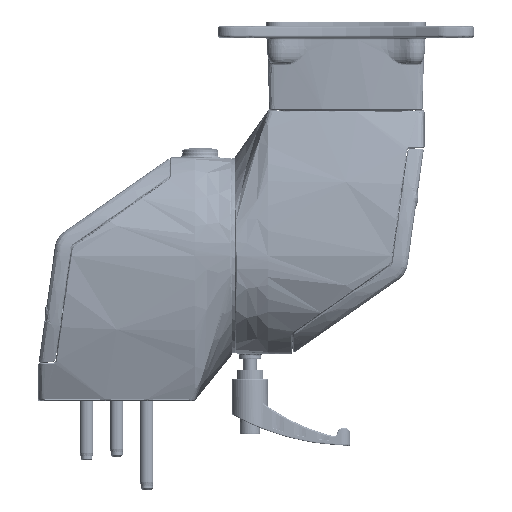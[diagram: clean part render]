
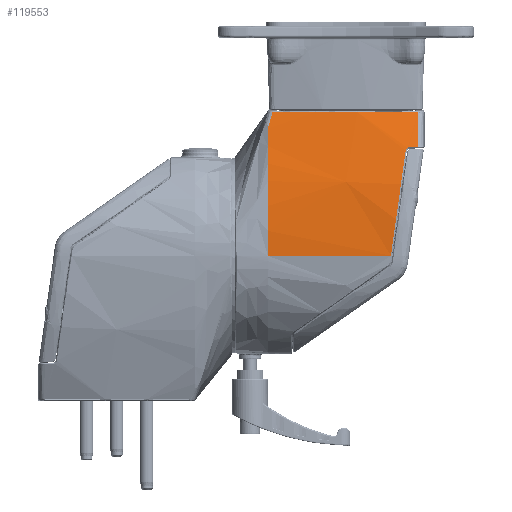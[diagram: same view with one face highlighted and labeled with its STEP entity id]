
A CAD part, left-side view. The second image highlights one B-rep face of the part: STEP entity #119553.
In plain terms, the highlighted free-form (B-spline) face has degree [3, 3] with [5, 5] control points.
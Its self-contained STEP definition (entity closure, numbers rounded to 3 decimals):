
#85791=DIRECTION('',(0.,1.,0.));
#85792=VECTOR('',#85791,55.175);
#85793=CARTESIAN_POINT('',(44.,15.,0.));
#85794=LINE('',#85793,#85792);
#85812=CARTESIAN_POINT('',(29.618,17.142,64.427));
#85813=CARTESIAN_POINT('',(29.942,16.914,63.661));
#85814=CARTESIAN_POINT('',(30.599,16.45,62.085));
#85815=CARTESIAN_POINT('',(31.612,15.732,59.574));
#85816=CARTESIAN_POINT('',(32.294,15.244,57.817));
#85817=CARTESIAN_POINT('',(32.637,14.998,56.916));
#85822=CARTESIAN_POINT('',(29.684,82.445,64.425));
#85823=CARTESIAN_POINT('',(29.917,80.971,64.419));
#85824=CARTESIAN_POINT('',(30.35,78.022,64.409));
#85825=CARTESIAN_POINT('',(30.886,73.768,64.395));
#85826=CARTESIAN_POINT('',(31.368,69.176,64.383));
#85827=CARTESIAN_POINT('',(31.763,64.35,64.372));
#85828=CARTESIAN_POINT('',(32.058,59.248,64.364));
#85829=CARTESIAN_POINT('',(32.228,53.968,64.36));
#85830=CARTESIAN_POINT('',(32.262,48.659,64.359));
#85831=CARTESIAN_POINT('',(32.16,43.417,64.362));
#85832=CARTESIAN_POINT('',(31.928,38.22,64.368));
#85833=CARTESIAN_POINT('',(31.577,33.185,64.377));
#85834=CARTESIAN_POINT('',(31.114,28.244,64.389));
#85835=CARTESIAN_POINT('',(30.503,23.055,64.405));
#85836=CARTESIAN_POINT('',(29.943,19.17,64.419));
#85837=CARTESIAN_POINT('',(29.618,17.142,64.427));
#85842=CARTESIAN_POINT('',(29.684,82.445,64.425));
#85843=CARTESIAN_POINT('',(30.161,82.432,63.41));
#85844=CARTESIAN_POINT('',(31.092,82.405,61.367));
#85845=CARTESIAN_POINT('',(32.424,82.366,58.263));
#85846=CARTESIAN_POINT('',(33.687,82.33,55.124));
#85847=CARTESIAN_POINT('',(34.882,82.295,51.951));
#85848=CARTESIAN_POINT('',(35.631,82.273,49.816));
#85849=CARTESIAN_POINT('',(35.994,82.262,48.743));
#85854=CARTESIAN_POINT('',(36.295,78.734,48.676));
#85855=CARTESIAN_POINT('',(36.263,79.126,48.684));
#85856=CARTESIAN_POINT('',(36.199,79.909,48.699));
#85857=CARTESIAN_POINT('',(36.099,81.085,48.721));
#85858=CARTESIAN_POINT('',(36.029,81.87,48.736));
#85859=CARTESIAN_POINT('',(35.994,82.262,48.743));
#85864=CARTESIAN_POINT('',(36.975,76.784,46.947));
#85865=CARTESIAN_POINT('',(36.914,76.811,47.139));
#85866=CARTESIAN_POINT('',(36.79,76.922,47.519));
#85867=CARTESIAN_POINT('',(36.616,77.241,48.008));
#85868=CARTESIAN_POINT('',(36.467,77.674,48.381));
#85869=CARTESIAN_POINT('',(36.354,78.191,48.617));
#85870=CARTESIAN_POINT('',(36.309,78.551,48.673));
#85871=CARTESIAN_POINT('',(36.295,78.734,48.676));
#85876=CARTESIAN_POINT('',(44.,70.175,0.));
#85877=CARTESIAN_POINT('',(44.,70.748,4.089));
#85878=CARTESIAN_POINT('',(43.697,71.904,12.328));
#85879=CARTESIAN_POINT('',(42.356,73.583,24.273));
#85880=CARTESIAN_POINT('',(40.141,75.222,35.904));
#85881=CARTESIAN_POINT('',(38.132,76.264,43.276));
#85882=CARTESIAN_POINT('',(36.975,76.784,46.947));
#86381=CARTESIAN_POINT('',(32.637,14.998,56.916));
#86419=CARTESIAN_POINT('',(-104.245,15.,0.));
#86420=DIRECTION('',(0.,-1.,0.));
#86421=DIRECTION('',(0.974,0.,0.225));
#86422=AXIS2_PLACEMENT_3D('',#86419,#86420,#86421);
#86427=CARTESIAN_POINT('',(-104.245,15.,0.));
#86428=DIRECTION('',(0.,-1.,0.));
#86429=DIRECTION('',(1.,0.,0.));
#86430=AXIS2_PLACEMENT_3D('',#86427,#86428,#86429);
#96722=CARTESIAN_POINT('',(44.,15.,0.));
#96723=CARTESIAN_POINT('',(40.209,15.,33.31));
#96724=VERTEX_POINT('',#96722);
#96725=VERTEX_POINT('',#96723);
#96746=VERTEX_POINT('',#86381);
#96762=VERTEX_POINT('',#85876);
#96763=VERTEX_POINT('',#85882);
#96942=VERTEX_POINT('',#85812);
#97385=VERTEX_POINT('',#85842);
#97386=VERTEX_POINT('',#85849);
#97812=VERTEX_POINT('',#85854);
#119509=CARTESIAN_POINT('',(28.86,14.329,
65.027));
#119510=CARTESIAN_POINT('',(30.946,26.219,
65.028));
#119511=CARTESIAN_POINT('',(32.957,49.147,
65.029));
#119512=CARTESIAN_POINT('',(31.09,72.076,
65.028));
#119513=CARTESIAN_POINT('',(29.293,83.113,
65.028));
#119514=CARTESIAN_POINT('',(33.822,14.329,
54.947));
#119515=CARTESIAN_POINT('',(35.218,26.219,
54.833));
#119516=CARTESIAN_POINT('',(36.63,49.147,
54.522));
#119517=CARTESIAN_POINT('',(35.319,72.076,
54.811));
#119518=CARTESIAN_POINT('',(34.112,83.113,
54.922));
#119519=CARTESIAN_POINT('',(41.505,14.329,
33.435));
#119520=CARTESIAN_POINT('',(41.858,26.219,
33.179));
#119521=CARTESIAN_POINT('',(42.166,49.147,
32.982));
#119522=CARTESIAN_POINT('',(41.88,72.076,
33.165));
#119523=CARTESIAN_POINT('',(41.578,83.113,
33.382));
#119524=CARTESIAN_POINT('',(44.05,14.329,
10.753));
#119525=CARTESIAN_POINT('',(44.045,26.219,
10.672));
#119526=CARTESIAN_POINT('',(44.036,49.147,
10.699));
#119527=CARTESIAN_POINT('',(44.044,72.076,
10.674));
#119528=CARTESIAN_POINT('',(44.049,83.113,
10.737));
#119529=CARTESIAN_POINT('',(43.999,14.329,
-0.663));
#119530=CARTESIAN_POINT('',(43.999,26.219,
-0.658));
#119531=CARTESIAN_POINT('',(43.999,49.147,
-0.659));
#119532=CARTESIAN_POINT('',(43.999,72.076,
-0.658));
#119533=CARTESIAN_POINT('',(43.999,83.113,
-0.662));
#119534=B_SPLINE_SURFACE_WITH_KNOTS('',3,3,((#119509,#119510,#119511,#119512,
#119513),(#119514,#119515,#119516,#119517,#119518),(#119519,#119520,#119521,
#119522,#119523),(#119524,#119525,#119526,#119527,#119528),(#119529,#119530,
#119531,#119532,#119533)),.UNSPECIFIED.,.F.,.F.,.F.,(4,1,4),(4,1,4),(
0.,0.5,1.01),(-0.672,35.043,
68.197),.UNSPECIFIED.);
#119536=ORIENTED_EDGE('',*,*,#119535,.F.);
#119538=ORIENTED_EDGE('',*,*,#119537,.F.);
#119540=ORIENTED_EDGE('',*,*,#119539,.T.);
#119542=ORIENTED_EDGE('',*,*,#119541,.F.);
#119544=ORIENTED_EDGE('',*,*,#119543,.F.);
#119545=ORIENTED_EDGE('',*,*,#119493,.F.);
#119546=ORIENTED_EDGE('',*,*,#119396,.F.);
#119548=ORIENTED_EDGE('',*,*,#119547,.T.);
#119550=ORIENTED_EDGE('',*,*,#119549,.T.);
#119551=EDGE_LOOP('',(#119536,#119538,#119540,#119542,#119544,#119545,#119546,
#119548,#119550));
#119552=FACE_OUTER_BOUND('',#119551,.F.);
#85818=B_SPLINE_CURVE_WITH_KNOTS('',3,(#85812,#85813,#85814,#85815,#85816,
#85817),.UNSPECIFIED.,.F.,.F.,(4,1,1,4),(0.,0.333,
0.667,1.),.UNSPECIFIED.);
#85838=B_SPLINE_CURVE_WITH_KNOTS('',3,(#85822,#85823,#85824,#85825,#85826,
#85827,#85828,#85829,#85830,#85831,#85832,#85833,#85834,#85835,#85836,#85837),
.UNSPECIFIED.,.F.,.F.,(4,1,1,1,1,1,1,1,1,1,1,1,1,4),(0.,0.077,
0.154,0.231,0.308,0.385,
0.462,0.538,0.615,0.692,
0.769,0.846,0.923,1.),.UNSPECIFIED.);
#85850=B_SPLINE_CURVE_WITH_KNOTS('',3,(#85842,#85843,#85844,#85845,#85846,
#85847,#85848,#85849),.UNSPECIFIED.,.F.,.F.,(4,1,1,1,1,4),(0.,0.2,0.4,
0.6,0.8,1.),.UNSPECIFIED.);
#85860=B_SPLINE_CURVE_WITH_KNOTS('',3,(#85854,#85855,#85856,#85857,#85858,
#85859),.UNSPECIFIED.,.F.,.F.,(4,1,1,4),(0.,0.333,
0.667,1.),.UNSPECIFIED.);
#85872=B_SPLINE_CURVE_WITH_KNOTS('',3,(#85864,#85865,#85866,#85867,#85868,
#85869,#85870,#85871),.UNSPECIFIED.,.F.,.F.,(4,1,1,1,1,4),(0.,
0.2,0.4,0.6,0.8,1.),
.UNSPECIFIED.);
#85883=B_SPLINE_CURVE_WITH_KNOTS('',3,(#85876,#85877,#85878,#85879,#85880,
#85881,#85882),.UNSPECIFIED.,.F.,.F.,(4,1,1,1,4),(0.,0.25,0.5,0.75,
1.),.UNSPECIFIED.);
#86423=CIRCLE('',#86422,148.245);
#86431=CIRCLE('',#86430,148.245);
#119396=EDGE_CURVE('',#96724,#96762,#85794,.T.);
#119493=EDGE_CURVE('',#96762,#96763,#85883,.T.);
#119535=EDGE_CURVE('',#96942,#96746,#85818,.T.);
#119537=EDGE_CURVE('',#97385,#96942,#85838,.T.);
#119539=EDGE_CURVE('',#97385,#97386,#85850,.T.);
#119541=EDGE_CURVE('',#97812,#97386,#85860,.T.);
#119543=EDGE_CURVE('',#96763,#97812,#85872,.T.);
#119547=EDGE_CURVE('',#96724,#96725,#86431,.T.);
#119549=EDGE_CURVE('',#96725,#96746,#86423,.T.);
#119553=ADVANCED_FACE('',(#119552),#119534,.T.);
